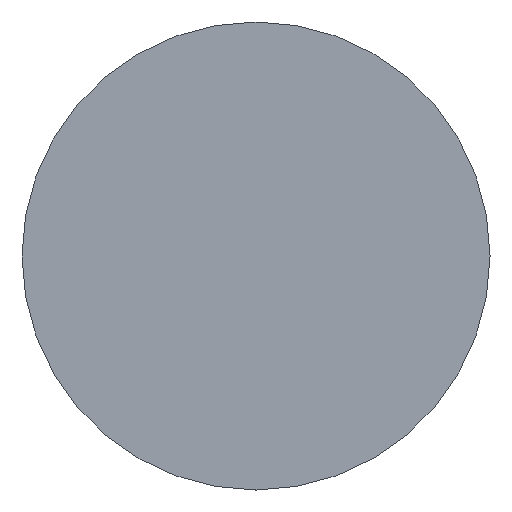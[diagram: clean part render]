
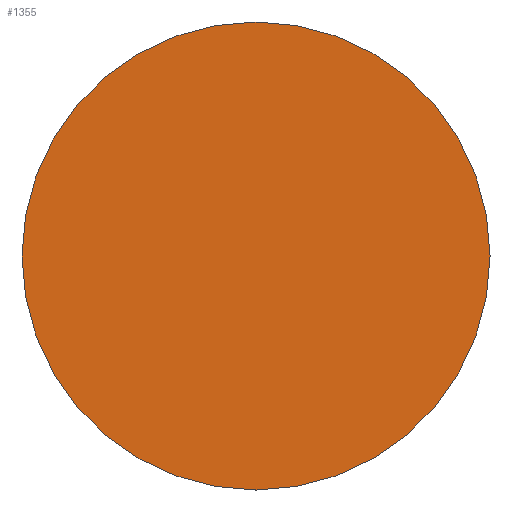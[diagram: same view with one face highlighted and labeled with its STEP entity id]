
A CAD part, left-side view. The second image highlights one B-rep face of the part: STEP entity #1355.
In plain terms, the highlighted planar face has unit normal (-1, 0, 0).
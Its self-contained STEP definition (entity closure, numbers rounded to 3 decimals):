
#1308=CARTESIAN_POINT('',(-528.136,-529.609,0.));
#1309=VERTEX_POINT('',#1308);
#1316=CARTESIAN_POINT('',(-528.136,-446.609,0.));
#1317=VERTEX_POINT('',#1316);
#1318=CARTESIAN_POINT('',(-528.136,-488.109,0.));
#1319=DIRECTION('',(-1.0,0.0,0.));
#1320=DIRECTION('',(0.0,-1.0,0.0));
#1321=AXIS2_PLACEMENT_3D('',#1318,#1319,#1320);
#1322=CIRCLE('',#1321,41.5);
#1323=EDGE_CURVE('',#1317,#1309,#1322,.T.);
#1325=CARTESIAN_POINT('',(-528.136,-488.109,0.));
#1326=DIRECTION('',(-1.0,0.0,0.));
#1327=DIRECTION('',(0.0,-1.0,0.0));
#1328=AXIS2_PLACEMENT_3D('',#1325,#1326,#1327);
#1329=CIRCLE('',#1328,41.5);
#1330=EDGE_CURVE('',#1309,#1317,#1329,.T.);
#1346=CARTESIAN_POINT('',(-528.136,-438.309,-49.8));
#1347=DIRECTION('',(-1.0,0.0,0.0));
#1348=DIRECTION('',(0.0,-1.0,0.0));
#1349=AXIS2_PLACEMENT_3D('',#1346,#1347,#1348);
#1350=PLANE('',#1349);
#1351=ORIENTED_EDGE('',*,*,#1330,.T.);
#1352=ORIENTED_EDGE('',*,*,#1323,.T.);
#1353=EDGE_LOOP('',(#1351,#1352));
#1354=FACE_OUTER_BOUND('',#1353,.T.);
#1355=ADVANCED_FACE('',(#1354),#1350,.T.);
